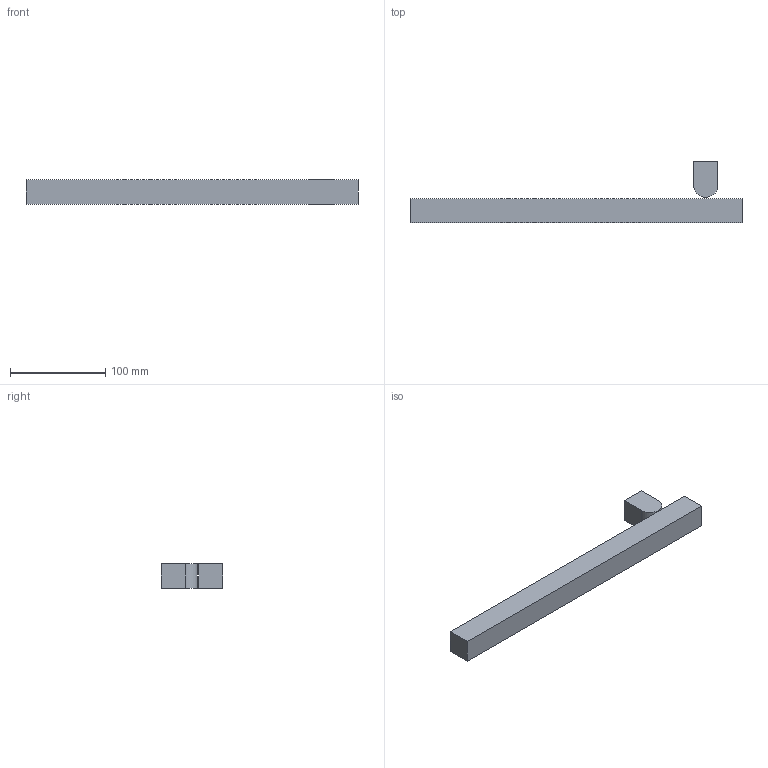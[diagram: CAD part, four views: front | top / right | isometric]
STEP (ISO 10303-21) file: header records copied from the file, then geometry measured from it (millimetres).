
FILE_DESCRIPTION (( 'STEP AP203' ), '1' );
FILE_NAME ('Exercise C.stp.STEP', '2008-07-31T19:51:09', ( 'ALGOR' ), ( 'ALGOR Inc.' ), 'SwSTEP 2.0', 'SolidWorks 2008', '' );
FILE_SCHEMA (( 'CONFIG_CONTROL_DESIGN' ));
Length unit declared in the file: inch
Products named in the file (3): Exercise C.stp; beam; ram
Assembly tree (2 placements, depth 2):
  Exercise C.stp
    beam
    ram
Bounding box: 349.25 x 64.77 x 25.4 mm (x, y, z)
Volume: 248144.4 mm3; surface area: 41520 mm2
Topology: 2 solids, 2 shells, 12 faces, 24 edges, 16 vertices
Faces by surface type: plane 11, cylinder 1
Entity records: 621 total; most frequent: DIRECTION 60, CARTESIAN_POINT 57, ORIENTED_EDGE 48, PERSON_AND_ORGANIZATION 26, EDGE_CURVE 24, LINE 22, VECTOR 22, AXIS2_PLACEMENT_3D 19
